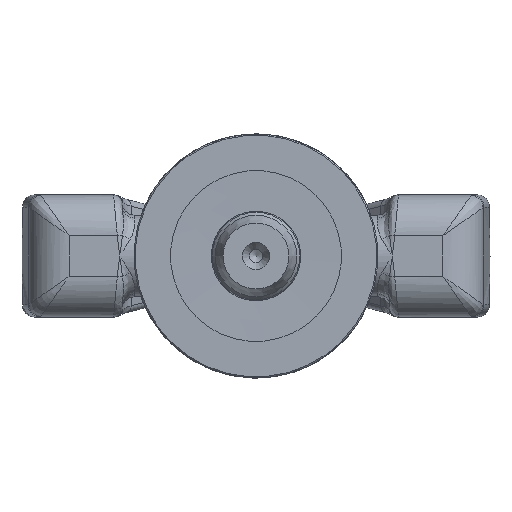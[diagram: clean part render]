
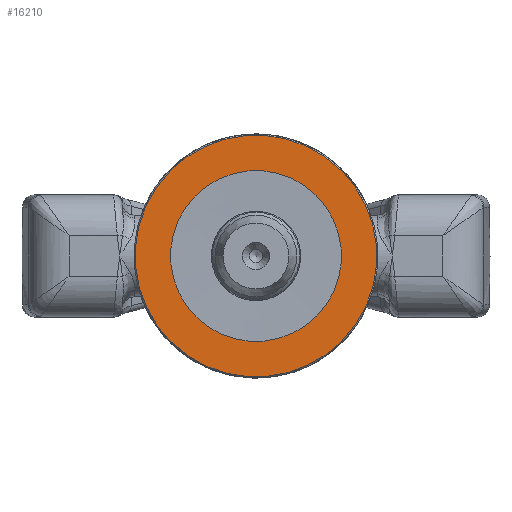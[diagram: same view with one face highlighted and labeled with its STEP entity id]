
A CAD part, front view. The second image highlights one B-rep face of the part: STEP entity #16210.
In plain terms, the highlighted planar face has unit normal (0, -1, 0) as drawn and (0, 0, -1) by its records, which use the part's own axes.
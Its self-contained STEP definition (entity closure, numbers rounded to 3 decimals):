
#128=FACE_BOUND('',#4837,.T.);
#3111=PLANE('',#17357);
#3839=FACE_OUTER_BOUND('',#4836,.T.);
#4836=EDGE_LOOP('',(#13251));
#4837=EDGE_LOOP('',(#13252));
#5563=CIRCLE('',#17354,29.7);
#5565=CIRCLE('',#17358,21.);
#7413=VERTEX_POINT('',#44285);
#7415=VERTEX_POINT('',#44291);
#9499=EDGE_CURVE('',#7413,#7413,#5563,.T.);
#9501=EDGE_CURVE('',#7415,#7415,#5565,.T.);
#13251=ORIENTED_EDGE('',*,*,#9499,.F.);
#13252=ORIENTED_EDGE('',*,*,#9501,.F.);
#16210=ADVANCED_FACE('',(#3839,#128),#3111,.F.);
#17354=AXIS2_PLACEMENT_3D('',#44286,#19543,#19544);
#17357=AXIS2_PLACEMENT_3D('',#44290,#19549,#19550);
#17358=AXIS2_PLACEMENT_3D('',#44292,#19551,#19552);
#19543=DIRECTION('center_axis',(0.,0.,1.));
#19544=DIRECTION('ref_axis',(-1.,0.,0.));
#19549=DIRECTION('center_axis',(0.,0.,1.));
#19550=DIRECTION('ref_axis',(1.,0.,0.));
#19551=DIRECTION('center_axis',(0.,0.,-1.));
#19552=DIRECTION('ref_axis',(-1.,0.,0.));
#44285=CARTESIAN_POINT('',(29.7,0.,0.));
#44286=CARTESIAN_POINT('Origin',(0.,0.,0.));
#44290=CARTESIAN_POINT('Origin',(0.,0.,0.));
#44291=CARTESIAN_POINT('',(21.,0.,0.));
#44292=CARTESIAN_POINT('Origin',(0.,0.,0.));
